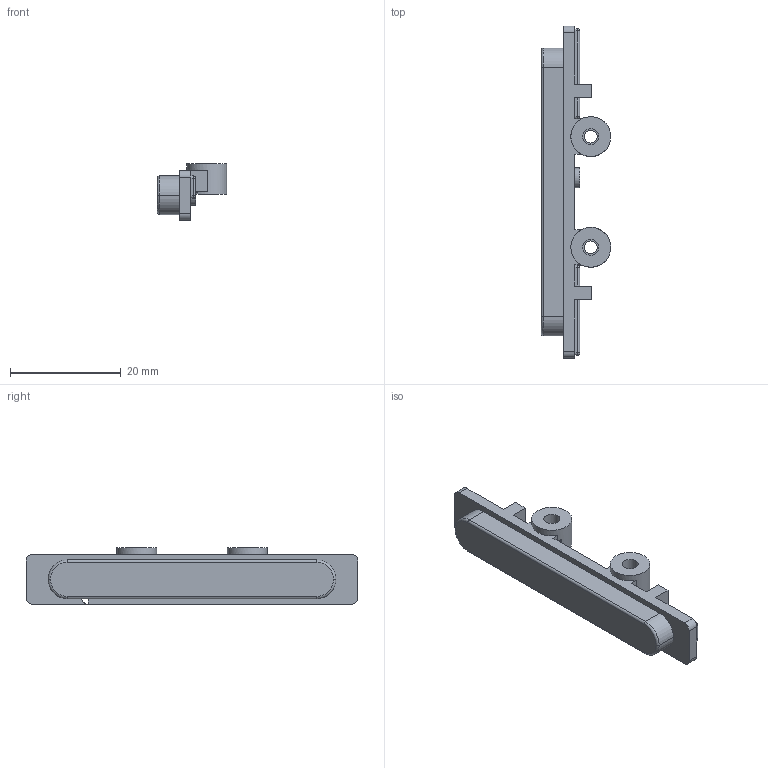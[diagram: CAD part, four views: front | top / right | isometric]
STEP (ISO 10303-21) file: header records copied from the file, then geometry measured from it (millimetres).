
FILE_DESCRIPTION(('Open CASCADE Model'),'2;1');
FILE_NAME('Open CASCADE Shape Model','2026-09-21T11:06:42',('Author'),( 'Open CASCADE'),'Open CASCADE STEP processor 7.7','Open CASCADE 7.7' ,'Unknown');
FILE_SCHEMA(('AUTOMOTIVE_DESIGN { 1 0 10303 214 1 1 1 1 }'));
Length unit declared in the file: millimetre
Products named in the file (1): Open CASCADE STEP translator 7.7 4
Bounding box: 12.55 x 60 x 10.2 mm (x, y, z)
Volume: 2895 mm3; surface area: 2402 mm2
Topology: 1 solids, 1 shells, 123 faces, 319 edges, 196 vertices
Faces by surface type: plane 68, cylinder 43, sphere 8, torus 4
Full cylindrical faces by diameter (mm): 2.3 x2, 2.9 x2, 3.6 x1, 7.2 x2
Entity records: 7625 total; most frequent: CARTESIAN_POINT 1480, DIRECTION 1120, ORIENTED_EDGE 622, PCURVE 622, DEFINITIONAL_REPRESENTATION 622, LINE 618, VECTOR 618, EDGE_CURVE 311
